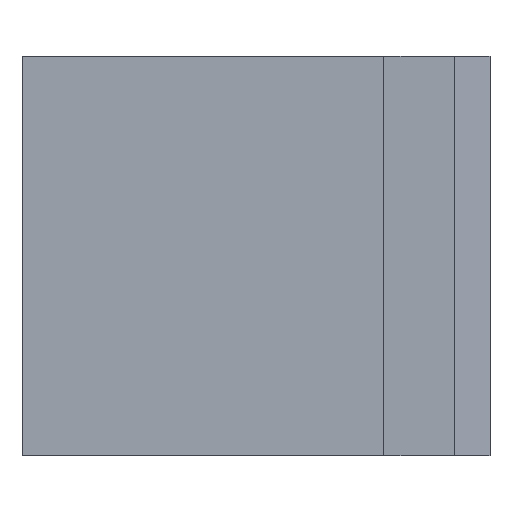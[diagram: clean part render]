
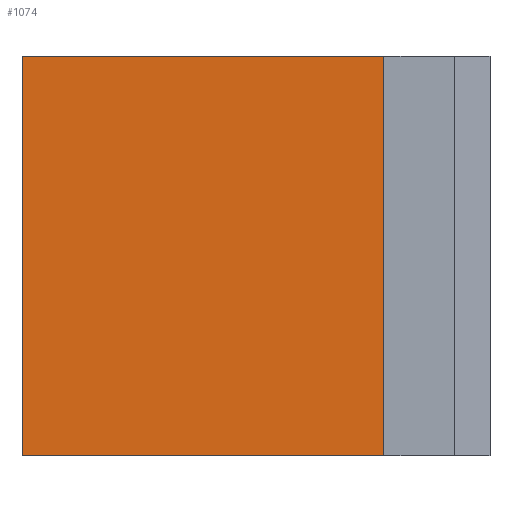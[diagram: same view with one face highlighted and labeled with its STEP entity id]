
A CAD part, left-side view. The second image highlights one B-rep face of the part: STEP entity #1074.
In plain terms, the highlighted planar face has unit normal (-1, 0, 0).
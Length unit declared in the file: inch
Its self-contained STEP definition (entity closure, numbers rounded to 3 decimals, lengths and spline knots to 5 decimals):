
#1018=CARTESIAN_POINT('',(-0.37402,0.,1.0));
#1019=VERTEX_POINT('',#1018);
#1026=CARTESIAN_POINT('',(-0.37402,0.,0.0));
#1027=VERTEX_POINT('',#1026);
#1028=CARTESIAN_POINT('',(-0.37402,0.,0.0));
#1029=DIRECTION('',(0.0,0.0,1.0));
#1030=VECTOR('',#1029,1.0);
#1031=LINE('',#1028,#1030);
#1032=EDGE_CURVE('',#1027,#1019,#1031,.T.);
#1044=CARTESIAN_POINT('',(-0.37402,0.,0.0));
#1045=DIRECTION('',(-1.0,0.0,0.0));
#1046=DIRECTION('',(0.0,0.0,1.0));
#1047=AXIS2_PLACEMENT_3D('',#1044,#1045,#1046);
#1048=PLANE('',#1047);
#1049=CARTESIAN_POINT('',(-0.37402,0.90551,1.0));
#1050=VERTEX_POINT('',#1049);
#1051=CARTESIAN_POINT('',(-0.37402,0.,1.0));
#1052=DIRECTION('',(0.0,1.0,0.0));
#1053=VECTOR('',#1052,0.90551);
#1054=LINE('',#1051,#1053);
#1055=EDGE_CURVE('',#1019,#1050,#1054,.T.);
#1056=ORIENTED_EDGE('',*,*,#1055,.T.);
#1057=CARTESIAN_POINT('',(-0.37402,0.90551,0.0));
#1058=VERTEX_POINT('',#1057);
#1059=CARTESIAN_POINT('',(-0.37402,0.90551,0.0));
#1060=DIRECTION('',(0.0,0.0,1.0));
#1061=VECTOR('',#1060,1.0);
#1062=LINE('',#1059,#1061);
#1063=EDGE_CURVE('',#1058,#1050,#1062,.T.);
#1064=ORIENTED_EDGE('',*,*,#1063,.F.);
#1065=CARTESIAN_POINT('',(-0.37402,0.,0.0));
#1066=DIRECTION('',(0.0,1.0,0.0));
#1067=VECTOR('',#1066,0.90551);
#1068=LINE('',#1065,#1067);
#1069=EDGE_CURVE('',#1027,#1058,#1068,.T.);
#1070=ORIENTED_EDGE('',*,*,#1069,.F.);
#1071=ORIENTED_EDGE('',*,*,#1032,.T.);
#1072=EDGE_LOOP('',(#1056,#1064,#1070,#1071));
#1073=FACE_OUTER_BOUND('',#1072,.T.);
#1074=ADVANCED_FACE('',(#1073),#1048,.T.);
